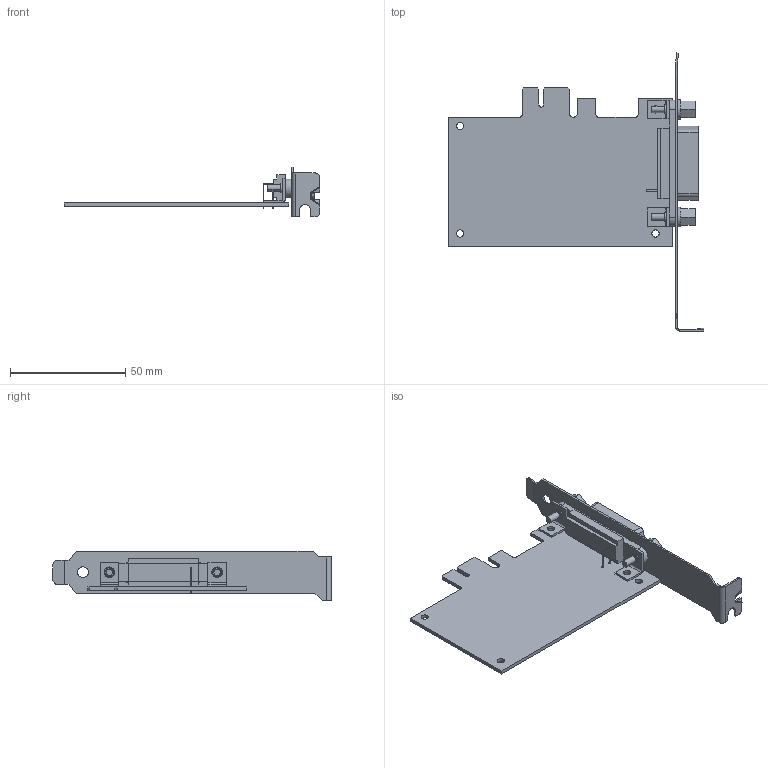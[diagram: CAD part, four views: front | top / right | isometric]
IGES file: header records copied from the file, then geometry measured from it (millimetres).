
Start section:  PTC IGES file: cu_ni_pcie-gpib.igs
Global section: file name: cu_ni_pcie-gpib.igs; native system: Creo Parametric by Parametric Technology Corporation; preprocessor: 2015280; author: dkendric; organization: Unknown; date: 20151221.113825; units: inch
Bounding box: 111.08 x 120.8 x 21.59 mm (x, y, z)
Surface area: 20866.1 mm2 (no closed solid volume)
Topology: 0 solids, 0 shells, 241 faces, 1274 edges, 1274 vertices
Faces by surface type: bspline 161, revolution 80
